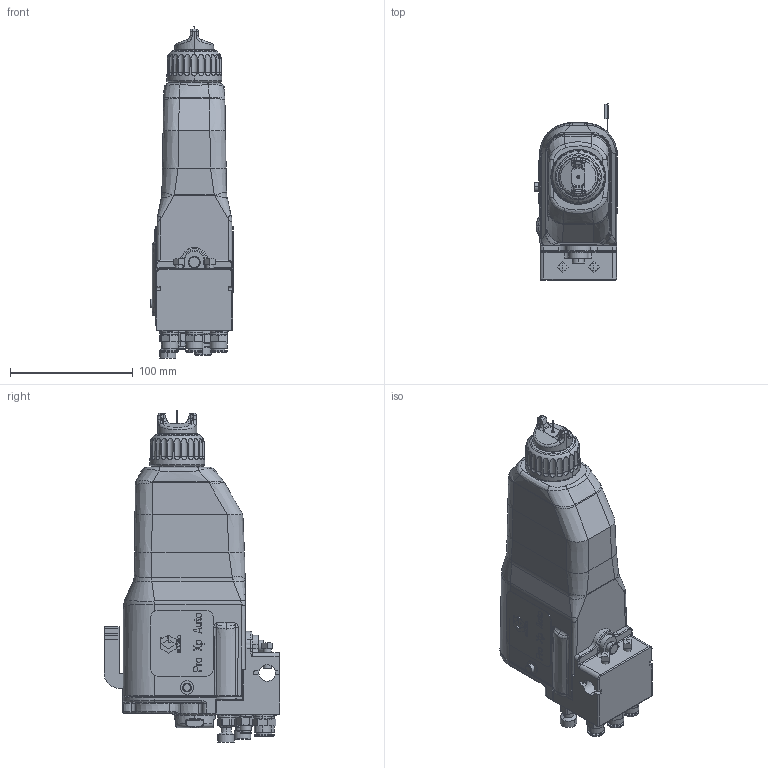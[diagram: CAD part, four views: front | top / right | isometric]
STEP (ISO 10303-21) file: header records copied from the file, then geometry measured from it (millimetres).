
FILE_DESCRIPTION((''),'2;1');
FILE_NAME('LA1M10-EN-K_PRT','2020-05-18T18:56:45',('qusrh3'),(''),'CREO PARAMETRIC BY PTC INC, 2019030','CREO PARAMETRIC BY PTC INC, 2019030','');
FILE_SCHEMA(('CONFIG_CONTROL_DESIGN'));
Products named in the file (1): LA1M10-EN-K_PRT
Bounding box: 67.94 x 143.13 x 270.08 mm (x, y, z)
Surface area: 105528.9 mm2 (no closed solid volume)
Topology: 0 solids, 89 shells, 1207 faces, 3681 edges, 2515 vertices
Faces by surface type: plane 586, bspline 224, cylinder 180, cone 85, torus 47, extrusion 45, sphere 40
Entity records: 57771 total; most frequent: CARTESIAN_POINT 27722, ORIENTED_EDGE 6128, DIRECTION 5468, EDGE_CURVE 3675, VERTEX_POINT 2515, VECTOR 2156, LINE 2111, AXIS2_PLACEMENT_3D 1656
